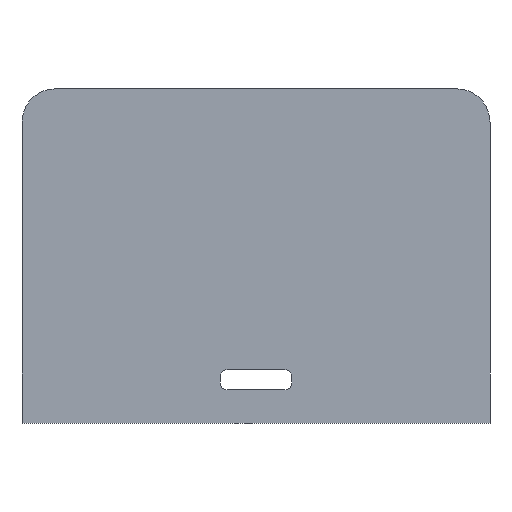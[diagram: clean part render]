
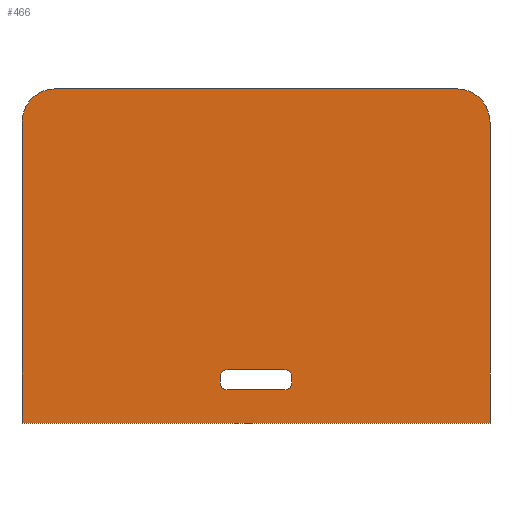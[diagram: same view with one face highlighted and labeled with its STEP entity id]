
A CAD part, front view. The second image highlights one B-rep face of the part: STEP entity #466.
In plain terms, the highlighted planar face has unit normal (0, -1, 0).
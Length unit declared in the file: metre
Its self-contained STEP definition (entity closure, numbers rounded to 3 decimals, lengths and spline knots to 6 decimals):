
#12=CIRCLE('',#498,0.005);
#14=CIRCLE('',#504,0.005);
#20=CIRCLE('',#513,0.001);
#21=CIRCLE('',#514,0.001);
#22=CIRCLE('',#515,0.001);
#23=CIRCLE('',#516,0.001);
#92=ORIENTED_EDGE('',*,*,#174,.T.);
#93=ORIENTED_EDGE('',*,*,#190,.F.);
#94=ORIENTED_EDGE('',*,*,#187,.F.);
#95=ORIENTED_EDGE('',*,*,#184,.F.);
#96=ORIENTED_EDGE('',*,*,#181,.T.);
#97=ORIENTED_EDGE('',*,*,#178,.F.);
#98=ORIENTED_EDGE('',*,*,#164,.F.);
#99=ORIENTED_EDGE('',*,*,#208,.T.);
#100=ORIENTED_EDGE('',*,*,#194,.F.);
#101=ORIENTED_EDGE('',*,*,#209,.T.);
#102=ORIENTED_EDGE('',*,*,#170,.F.);
#103=ORIENTED_EDGE('',*,*,#210,.T.);
#104=ORIENTED_EDGE('',*,*,#168,.T.);
#105=ORIENTED_EDGE('',*,*,#211,.T.);
#164=EDGE_CURVE('',#230,#231,#274,.T.);
#168=EDGE_CURVE('',#235,#234,#278,.T.);
#170=EDGE_CURVE('',#236,#237,#280,.T.);
#174=EDGE_CURVE('',#240,#241,#284,.T.);
#178=EDGE_CURVE('',#240,#244,#12,.F.);
#181=EDGE_CURVE('',#246,#244,#289,.T.);
#184=EDGE_CURVE('',#246,#248,#292,.T.);
#187=EDGE_CURVE('',#248,#250,#295,.T.);
#190=EDGE_CURVE('',#250,#241,#14,.F.);
#194=EDGE_CURVE('',#254,#255,#300,.T.);
#208=EDGE_CURVE('',#230,#255,#20,.T.);
#209=EDGE_CURVE('',#254,#237,#21,.T.);
#210=EDGE_CURVE('',#236,#235,#22,.T.);
#211=EDGE_CURVE('',#234,#231,#23,.T.);
#230=VERTEX_POINT('',#666);
#231=VERTEX_POINT('',#668);
#234=VERTEX_POINT('',#675);
#235=VERTEX_POINT('',#677);
#236=VERTEX_POINT('',#681);
#237=VERTEX_POINT('',#682);
#240=VERTEX_POINT('',#690);
#241=VERTEX_POINT('',#691);
#244=VERTEX_POINT('',#699);
#246=VERTEX_POINT('',#705);
#248=VERTEX_POINT('',#711);
#250=VERTEX_POINT('',#717);
#254=VERTEX_POINT('',#729);
#255=VERTEX_POINT('',#731);
#274=LINE('',#667,#328);
#278=LINE('',#676,#332);
#280=LINE('',#680,#334);
#284=LINE('',#689,#338);
#289=LINE('',#704,#343);
#292=LINE('',#710,#346);
#295=LINE('',#716,#349);
#300=LINE('',#730,#354);
#328=VECTOR('',#536,1.);
#332=VECTOR('',#542,1.);
#334=VECTOR('',#546,1.);
#338=VECTOR('',#552,1.);
#343=VECTOR('',#565,1.);
#346=VECTOR('',#570,1.);
#349=VECTOR('',#575,1.);
#354=VECTOR('',#588,1.);
#393=EDGE_LOOP('',(#92,#93,#94,#95,#96,#97));
#394=EDGE_LOOP('',(#98,#99,#100,#101,#102,#103,#104,#105));
#421=FACE_BOUND('',#393,.T.);
#422=FACE_BOUND('',#394,.T.);
#445=PLANE('',#512);
#466=ADVANCED_FACE('',(#421,#422),#445,.F.);
#498=AXIS2_PLACEMENT_3D('',#698,#558,#559);
#504=AXIS2_PLACEMENT_3D('',#722,#580,#581);
#512=AXIS2_PLACEMENT_3D('',#754,#608,#609);
#513=AXIS2_PLACEMENT_3D('',#755,#610,#611);
#514=AXIS2_PLACEMENT_3D('',#756,#612,#613);
#515=AXIS2_PLACEMENT_3D('',#757,#614,#615);
#516=AXIS2_PLACEMENT_3D('',#758,#616,#617);
#536=DIRECTION('',(1.,0.,0.));
#542=DIRECTION('',(0.,0.,-1.));
#546=DIRECTION('',(-1.,0.,0.));
#552=DIRECTION('',(-1.,0.,0.));
#558=DIRECTION('',(0.,-1.,0.));
#559=DIRECTION('',(0.,0.,-1.));
#565=DIRECTION('',(0.,0.,1.));
#570=DIRECTION('',(-1.,0.,0.));
#575=DIRECTION('',(0.,0.,1.));
#580=DIRECTION('',(0.,-1.,0.));
#581=DIRECTION('',(0.,0.,-1.));
#588=DIRECTION('',(0.,0.,-1.));
#608=DIRECTION('',(0.,1.,0.));
#609=DIRECTION('',(-1.,0.,0.));
#610=DIRECTION('',(0.,1.,0.));
#611=DIRECTION('',(0.,0.,1.));
#612=DIRECTION('',(0.,1.,0.));
#613=DIRECTION('',(0.,0.,1.));
#614=DIRECTION('',(0.,1.,0.));
#615=DIRECTION('',(0.,0.,1.));
#616=DIRECTION('',(0.,1.,0.));
#617=DIRECTION('',(0.,0.,1.));
#666=CARTESIAN_POINT('',(-0.00655,0.,-0.02));
#667=CARTESIAN_POINT('',(-0.002219,0.,-0.02));
#668=CARTESIAN_POINT('',(0.002112,0.,-0.02));
#675=CARTESIAN_POINT('',(0.003112,0.,-0.019));
#676=CARTESIAN_POINT('',(0.003112,0.,-0.019));
#677=CARTESIAN_POINT('',(0.003112,0.,-0.018));
#680=CARTESIAN_POINT('',(-0.002219,0.,-0.017));
#681=CARTESIAN_POINT('',(0.002112,0.,-0.017));
#682=CARTESIAN_POINT('',(-0.00655,0.,-0.017));
#689=CARTESIAN_POINT('',(-0.002219,0.,0.025));
#690=CARTESIAN_POINT('',(0.027781,0.,0.025));
#691=CARTESIAN_POINT('',(-0.032219,0.,0.025));
#698=CARTESIAN_POINT('',(0.027781,0.,0.02));
#699=CARTESIAN_POINT('',(0.032781,0.,0.02));
#704=CARTESIAN_POINT('',(0.032781,0.,0.));
#705=CARTESIAN_POINT('',(0.032781,0.,-0.025));
#710=CARTESIAN_POINT('',(-0.002219,0.,-0.025));
#711=CARTESIAN_POINT('',(-0.037219,0.,-0.025));
#716=CARTESIAN_POINT('',(-0.037219,0.,0.));
#717=CARTESIAN_POINT('',(-0.037219,0.,0.02));
#722=CARTESIAN_POINT('',(-0.032219,0.,0.02));
#729=CARTESIAN_POINT('',(-0.00755,0.,-0.018));
#730=CARTESIAN_POINT('',(-0.00755,0.,-0.0175));
#731=CARTESIAN_POINT('',(-0.00755,0.,-0.019));
#754=CARTESIAN_POINT('',(-0.002219,0.,0.));
#755=CARTESIAN_POINT('',(-0.00655,0.,-0.019));
#756=CARTESIAN_POINT('',(-0.00655,0.,-0.018));
#757=CARTESIAN_POINT('',(0.002112,0.,-0.018));
#758=CARTESIAN_POINT('',(0.002112,0.,-0.019));
